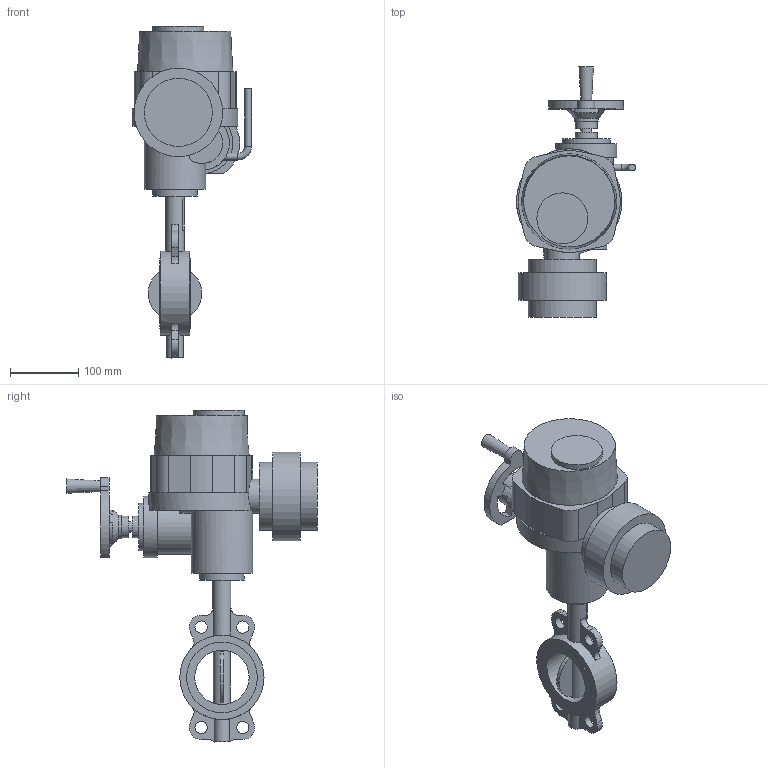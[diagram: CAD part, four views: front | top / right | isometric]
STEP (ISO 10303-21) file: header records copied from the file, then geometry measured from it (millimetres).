
FILE_DESCRIPTION(('STEP AP203'), '1');
FILE_NAME('青蜮铕 017W.Y_DN80_QT.A 005', '', ('UNSPECIFIED'), ('UNSPECIFIED'), 'ASCON STEP Converter 1.6', 'ASCON Math Kernel', '');
FILE_SCHEMA(('CONFIG_CONTROL_DESIGN'));
Length unit declared in the file: millimetre
Bounding box: 175 x 368 x 488 mm (x, y, z)
Volume: 5066277.3 mm3; surface area: 320132.1 mm2
Topology: 1 solids, 1 shells, 197 faces, 469 edges, 304 vertices
Faces by surface type: plane 111, cylinder 78, torus 5, cone 3
Full cylindrical faces by diameter (mm): 6.7 x8, 8 x4, 10 x2, 16 x1, 18 x4, 25 x1, 27 x1, 32 x2, 35 x1, 50 x1, 65 x1, 70 x1, 75 x1, 80 x1, 90 x2, 100 x2, 103.9 x2, 123.9 x1, 130 x1
Entity records: 8691 total; most frequent: CARTESIAN_POINT 2500, DIRECTION 1001, ORIENTED_EDGE 856, EDGE_CURVE 428, AXIS2_PLACEMENT_3D 407, VERTEX_POINT 304, EDGE_LOOP 286, FACE_BOUND 214
